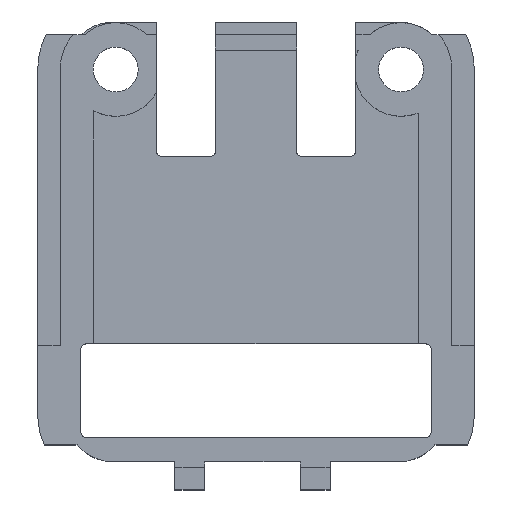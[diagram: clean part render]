
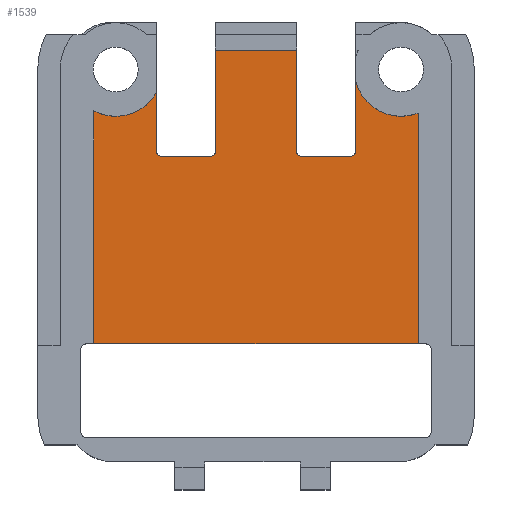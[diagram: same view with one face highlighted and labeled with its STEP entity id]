
A CAD part, top view. The second image highlights one B-rep face of the part: STEP entity #1539.
In plain terms, the highlighted planar face has unit normal (0, 0, 1).
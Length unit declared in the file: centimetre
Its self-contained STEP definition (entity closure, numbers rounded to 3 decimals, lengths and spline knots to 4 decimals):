
#35=PLANE('',#1660);
#95=FACE_OUTER_BOUND('',#176,.T.);
#176=EDGE_LOOP('',(#1182,#1183,#1184,#1185,#1186,#1187,#1188,#1189,#1190,
#1191,#1192,#1193,#1194,#1195,#1196,#1197));
#236=LINE('',#2194,#416);
#244=LINE('',#2211,#424);
#253=LINE('',#2233,#433);
#295=LINE('',#2355,#475);
#299=LINE('',#2364,#479);
#301=LINE('',#2369,#481);
#314=LINE('',#2402,#494);
#315=LINE('',#2404,#495);
#316=LINE('',#2406,#496);
#317=LINE('',#2408,#497);
#416=VECTOR('',#1756,1.);
#424=VECTOR('',#1766,1.);
#433=VECTOR('',#1783,1.);
#475=VECTOR('',#1883,1.);
#479=VECTOR('',#1893,1.);
#481=VECTOR('',#1897,1.);
#494=VECTOR('',#1926,1.);
#495=VECTOR('',#1927,1.);
#496=VECTOR('',#1928,1.);
#497=VECTOR('',#1931,1.);
#598=CIRCLE('',#1618,0.03);
#600=CIRCLE('',#1622,0.03);
#619=CIRCLE('',#1651,0.03);
#620=CIRCLE('',#1655,0.03);
#623=CIRCLE('',#1661,0.25);
#624=CIRCLE('',#1662,0.25);
#649=VERTEX_POINT('',#2192);
#650=VERTEX_POINT('',#2193);
#657=VERTEX_POINT('',#2209);
#658=VERTEX_POINT('',#2210);
#665=VERTEX_POINT('',#2226);
#667=VERTEX_POINT('',#2232);
#717=VERTEX_POINT('',#2353);
#718=VERTEX_POINT('',#2354);
#719=VERTEX_POINT('',#2359);
#720=VERTEX_POINT('',#2363);
#721=VERTEX_POINT('',#2367);
#722=VERTEX_POINT('',#2368);
#733=VERTEX_POINT('',#2399);
#734=VERTEX_POINT('',#2401);
#735=VERTEX_POINT('',#2403);
#736=VERTEX_POINT('',#2405);
#805=EDGE_CURVE('',#649,#650,#236,.T.);
#813=EDGE_CURVE('',#657,#658,#244,.T.);
#821=EDGE_CURVE('',#658,#665,#598,.T.);
#824=EDGE_CURVE('',#665,#667,#253,.T.);
#827=EDGE_CURVE('',#667,#649,#600,.T.);
#885=EDGE_CURVE('',#717,#718,#295,.T.);
#888=EDGE_CURVE('',#719,#717,#619,.T.);
#890=EDGE_CURVE('',#720,#719,#299,.T.);
#892=EDGE_CURVE('',#721,#722,#301,.T.);
#903=EDGE_CURVE('',#722,#720,#620,.T.);
#908=EDGE_CURVE('',#650,#733,#623,.T.);
#909=EDGE_CURVE('',#733,#734,#314,.T.);
#910=EDGE_CURVE('',#734,#735,#315,.T.);
#911=EDGE_CURVE('',#735,#736,#316,.T.);
#912=EDGE_CURVE('',#736,#721,#624,.T.);
#913=EDGE_CURVE('',#718,#657,#317,.T.);
#1182=ORIENTED_EDGE('',*,*,#805,.T.);
#1183=ORIENTED_EDGE('',*,*,#908,.T.);
#1184=ORIENTED_EDGE('',*,*,#909,.T.);
#1185=ORIENTED_EDGE('',*,*,#910,.T.);
#1186=ORIENTED_EDGE('',*,*,#911,.T.);
#1187=ORIENTED_EDGE('',*,*,#912,.T.);
#1188=ORIENTED_EDGE('',*,*,#892,.T.);
#1189=ORIENTED_EDGE('',*,*,#903,.T.);
#1190=ORIENTED_EDGE('',*,*,#890,.T.);
#1191=ORIENTED_EDGE('',*,*,#888,.T.);
#1192=ORIENTED_EDGE('',*,*,#885,.T.);
#1193=ORIENTED_EDGE('',*,*,#913,.T.);
#1194=ORIENTED_EDGE('',*,*,#813,.T.);
#1195=ORIENTED_EDGE('',*,*,#821,.T.);
#1196=ORIENTED_EDGE('',*,*,#824,.T.);
#1197=ORIENTED_EDGE('',*,*,#827,.T.);
#1539=ADVANCED_FACE('',(#95),#35,.T.);
#1618=AXIS2_PLACEMENT_3D('',#2227,#1776,#1777);
#1622=AXIS2_PLACEMENT_3D('',#2238,#1788,#1789);
#1651=AXIS2_PLACEMENT_3D('',#2360,#1888,#1889);
#1655=AXIS2_PLACEMENT_3D('',#2389,#1910,#1911);
#1660=AXIS2_PLACEMENT_3D('',#2398,#1922,#1923);
#1661=AXIS2_PLACEMENT_3D('',#2400,#1924,#1925);
#1662=AXIS2_PLACEMENT_3D('',#2407,#1929,#1930);
#1756=DIRECTION('',(0.,1.,0.));
#1766=DIRECTION('',(0.,-1.,0.));
#1776=DIRECTION('center_axis',(0.,0.,-1.));
#1777=DIRECTION('ref_axis',(0.,-1.,0.));
#1783=DIRECTION('',(-1.,0.,0.));
#1788=DIRECTION('center_axis',(0.,0.,-1.));
#1789=DIRECTION('ref_axis',(-1.,0.,0.));
#1883=DIRECTION('',(0.,1.,0.));
#1888=DIRECTION('center_axis',(0.,0.,-1.));
#1889=DIRECTION('ref_axis',(-1.,0.,0.));
#1893=DIRECTION('',(-1.,0.,0.));
#1897=DIRECTION('',(0.,-1.,0.));
#1910=DIRECTION('center_axis',(0.,0.,-1.));
#1911=DIRECTION('ref_axis',(0.,-1.,0.));
#1922=DIRECTION('center_axis',(0.,0.,1.));
#1923=DIRECTION('ref_axis',(1.,0.,0.));
#1924=DIRECTION('center_axis',(0.,0.,-1.));
#1925=DIRECTION('ref_axis',(1.,0.,0.));
#1926=DIRECTION('',(0.,-1.,0.));
#1927=DIRECTION('',(1.,0.,0.));
#1928=DIRECTION('',(0.,1.,0.));
#1929=DIRECTION('center_axis',(0.,0.,-1.));
#1930=DIRECTION('ref_axis',(1.,0.,0.));
#1931=DIRECTION('',(-1.,0.,0.));
#2192=CARTESIAN_POINT('',(-1.982,4.1962,0.99));
#2193=CARTESIAN_POINT('',(-1.982,4.5081,0.99));
#2194=CARTESIAN_POINT('',(-1.982,4.3086,0.99));
#2209=CARTESIAN_POINT('',(-1.6665,4.7357,0.99));
#2210=CARTESIAN_POINT('',(-1.6665,4.1962,0.99));
#2211=CARTESIAN_POINT('',(-1.6665,3.9536,0.99));
#2226=CARTESIAN_POINT('',(-1.6965,4.1662,0.99));
#2227=CARTESIAN_POINT('Origin',(-1.6965,4.1962,0.99));
#2232=CARTESIAN_POINT('',(-1.952,4.1662,0.99));
#2233=CARTESIAN_POINT('',(-1.701,4.1662,0.99));
#2238=CARTESIAN_POINT('Origin',(-1.952,4.1962,0.99));
#2353=CARTESIAN_POINT('',(-1.2335,4.1962,0.99));
#2354=CARTESIAN_POINT('',(-1.2335,4.7357,0.99));
#2355=CARTESIAN_POINT('',(-1.2335,4.3086,0.99));
#2359=CARTESIAN_POINT('',(-1.2035,4.1662,0.99));
#2360=CARTESIAN_POINT('Origin',(-1.2035,4.1962,0.99));
#2363=CARTESIAN_POINT('',(-0.948,4.1662,0.99));
#2364=CARTESIAN_POINT('',(-1.3268,4.1662,0.99));
#2367=CARTESIAN_POINT('',(-0.918,4.5717,0.99));
#2368=CARTESIAN_POINT('',(-0.918,4.1962,0.99));
#2369=CARTESIAN_POINT('',(-0.918,3.9536,0.99));
#2389=CARTESIAN_POINT('Origin',(-0.948,4.1962,0.99));
#2398=CARTESIAN_POINT('Origin',(-1.45,3.711,0.99));
#2399=CARTESIAN_POINT('',(-2.316,4.4106,0.99));
#2400=CARTESIAN_POINT('Origin',(-2.1993,4.6317,0.99));
#2401=CARTESIAN_POINT('',(-2.316,3.1662,0.99));
#2402=CARTESIAN_POINT('',(-2.316,3.2506,0.99));
#2403=CARTESIAN_POINT('',(-0.584,3.1662,0.99));
#2404=CARTESIAN_POINT('',(-0.997,3.1662,0.99));
#2405=CARTESIAN_POINT('',(-0.584,4.399,0.99));
#2406=CARTESIAN_POINT('',(-0.584,4.1713,0.99));
#2407=CARTESIAN_POINT('Origin',(-0.6753,4.6317,0.99));
#2408=CARTESIAN_POINT('',(-1.831,4.7357,0.99));
